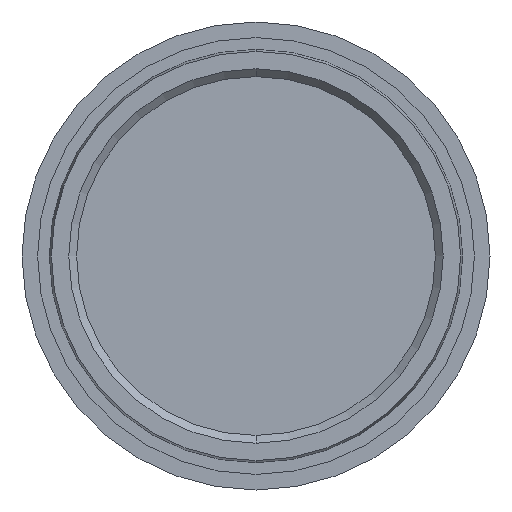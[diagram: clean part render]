
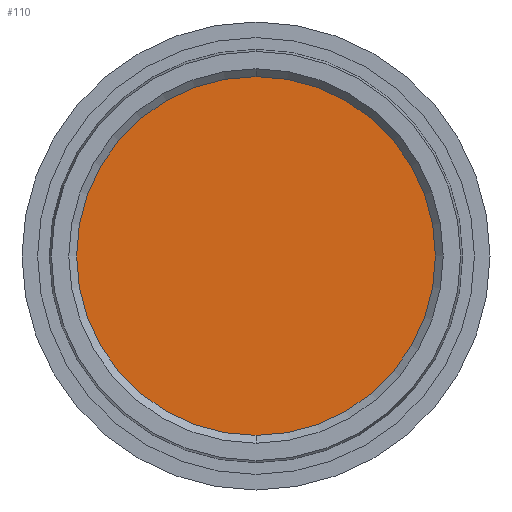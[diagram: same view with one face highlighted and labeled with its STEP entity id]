
A CAD part, front view. The second image highlights one B-rep face of the part: STEP entity #110.
In plain terms, the highlighted planar face has unit normal (0, -1, 0).
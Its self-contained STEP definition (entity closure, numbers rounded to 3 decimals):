
#5 = EDGE_CURVE ( 'NONE', #1142, #1092, #933, .T. ) ;
#18 = DIRECTION ( 'NONE',  ( 0., 0., -1. ) ) ;
#108 = ORIENTED_EDGE ( 'NONE', *, *, #5, .T. ) ;
#110 = ADVANCED_FACE ( 'NONE', ( #323 ), #410, .T. ) ;
#280 = AXIS2_PLACEMENT_3D ( 'NONE', #1088, #1181, #994 ) ;
#323 = FACE_OUTER_BOUND ( 'NONE', #905, .T. ) ;
#334 = AXIS2_PLACEMENT_3D ( 'NONE', #596, #767, #960 ) ;
#367 = CARTESIAN_POINT ( 'NONE',  ( 0., 7., -11.5 ) ) ;
#384 = CARTESIAN_POINT ( 'NONE',  ( 0., 7., 11.5 ) ) ;
#410 = PLANE ( 'NONE',  #334 ) ;
#497 = DIRECTION ( 'NONE',  ( 0., -1., 0. ) ) ;
#547 = EDGE_CURVE ( 'NONE', #1092, #1142, #651, .T. ) ;
#590 = CARTESIAN_POINT ( 'NONE',  ( 0., 7., 0. ) ) ;
#596 = CARTESIAN_POINT ( 'NONE',  ( 11.5, 7., 0. ) ) ;
#651 = CIRCLE ( 'NONE', #280, 11.5 ) ;
#767 = DIRECTION ( 'NONE',  ( 0., -1., 0. ) ) ;
#905 = EDGE_LOOP ( 'NONE', ( #977, #108 ) ) ;
#933 = CIRCLE ( 'NONE', #972, 11.5 ) ;
#960 = DIRECTION ( 'NONE',  ( 0., 0., -1. ) ) ;
#972 = AXIS2_PLACEMENT_3D ( 'NONE', #590, #497, #18 ) ;
#977 = ORIENTED_EDGE ( 'NONE', *, *, #547, .T. ) ;
#994 = DIRECTION ( 'NONE',  ( 0., 0., -1. ) ) ;
#1088 = CARTESIAN_POINT ( 'NONE',  ( 0., 7., 0. ) ) ;
#1092 = VERTEX_POINT ( 'NONE', #367 ) ;
#1142 = VERTEX_POINT ( 'NONE', #384 ) ;
#1181 = DIRECTION ( 'NONE',  ( 0., -1., 0. ) ) ;
